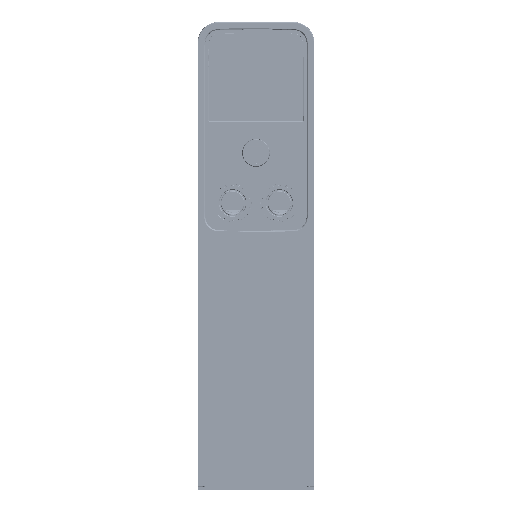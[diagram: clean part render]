
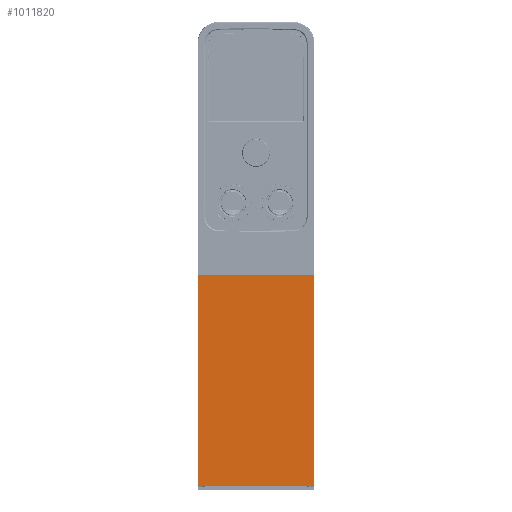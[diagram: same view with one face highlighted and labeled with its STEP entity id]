
A CAD part, top view. The second image highlights one B-rep face of the part: STEP entity #1011820.
In plain terms, the highlighted planar face has unit normal (0, 0, 1).
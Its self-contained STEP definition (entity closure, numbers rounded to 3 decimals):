
#1009723=DIRECTION('',(-1.,0.,0.));
#1009724=VECTOR('',#1009723,355.);
#1009725=CARTESIAN_POINT('',(177.5,-712.95,1.2));
#1009726=LINE('',#1009725,#1009724);
#1010161=DIRECTION('',(0.,-1.,0.));
#1010162=VECTOR('',#1010161,648.);
#1010163=CARTESIAN_POINT('',(177.5,-64.95,1.2));
#1010164=LINE('',#1010163,#1010162);
#1010191=DIRECTION('',(1.,0.,0.));
#1010192=VECTOR('',#1010191,355.);
#1010193=CARTESIAN_POINT('',(-177.5,-64.95,1.2));
#1010194=LINE('',#1010193,#1010192);
#1010198=DIRECTION('',(0.,1.,0.));
#1010199=VECTOR('',#1010198,648.);
#1010200=CARTESIAN_POINT('',(-177.5,-712.95,1.2));
#1010201=LINE('',#1010200,#1010199);
#1010837=CARTESIAN_POINT('',(177.5,-712.95,1.2));
#1010838=CARTESIAN_POINT('',(-177.5,-712.95,1.2));
#1010839=VERTEX_POINT('',#1010837);
#1010840=VERTEX_POINT('',#1010838);
#1010961=CARTESIAN_POINT('',(-177.5,-64.95,1.2));
#1010962=CARTESIAN_POINT('',(177.5,-64.95,1.2));
#1010963=VERTEX_POINT('',#1010961);
#1010964=VERTEX_POINT('',#1010962);
#1011807=CARTESIAN_POINT('',(0.,0.,1.2));
#1011808=DIRECTION('',(0.,0.,1.));
#1011809=DIRECTION('',(1.,0.,0.));
#1011810=AXIS2_PLACEMENT_3D('',#1011807,#1011808,#1011809);
#1011811=PLANE('',#1011810);
#1011813=ORIENTED_EDGE('',*,*,#1011812,.T.);
#1011814=ORIENTED_EDGE('',*,*,#1011790,.T.);
#1011815=ORIENTED_EDGE('',*,*,#1011390,.T.);
#1011817=ORIENTED_EDGE('',*,*,#1011816,.T.);
#1011818=EDGE_LOOP('',(#1011813,#1011814,#1011815,#1011817));
#1011819=FACE_OUTER_BOUND('',#1011818,.F.);
#1011820=ADVANCED_FACE('',(#1011819),#1011811,.T.);
#1011390=EDGE_CURVE('',#1010839,#1010840,#1009726,.T.);
#1011790=EDGE_CURVE('',#1010964,#1010839,#1010164,.T.);
#1011812=EDGE_CURVE('',#1010963,#1010964,#1010194,.T.);
#1011816=EDGE_CURVE('',#1010840,#1010963,#1010201,.T.);
